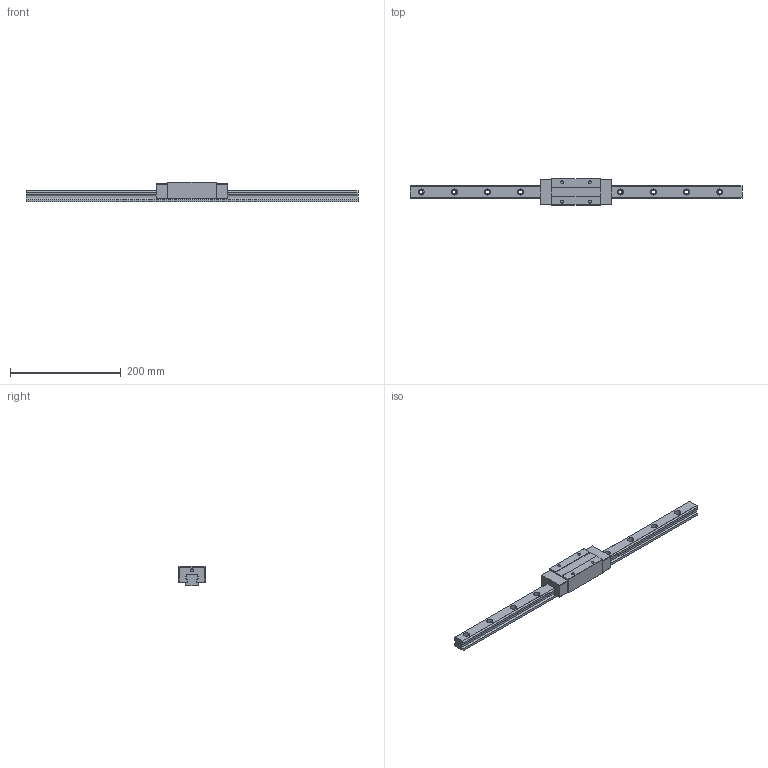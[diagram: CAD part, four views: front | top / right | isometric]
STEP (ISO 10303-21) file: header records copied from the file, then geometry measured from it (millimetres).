
FILE_DESCRIPTION (( 'STEP AP203' ), '1' );
FILE_NAME ('TRC25VE-WZ-§ï.STEP', '2023-08-21T01:46:08', ( '' ), ( '' ), 'SwSTEP 2.0', 'SolidWorks 2022', '' );
FILE_SCHEMA (( 'CONFIG_CONTROL_DESIGN' ));
Length unit declared in the file: millimetre
Products named in the file (1): TRC25VE-WZ-改
Bounding box: 600 x 48 x 36 mm (x, y, z)
Volume: 374569.2 mm3; surface area: 81502.2 mm2
Topology: 1 solids, 1 shells, 173 faces, 468 edges, 310 vertices
Faces by surface type: cylinder 88, plane 85
Entity records: 5613 total; most frequent: DIRECTION 994, CARTESIAN_POINT 952, ORIENTED_EDGE 936, EDGE_CURVE 468, AXIS2_PLACEMENT_3D 352, VERTEX_POINT 310, LINE 290, VECTOR 290
